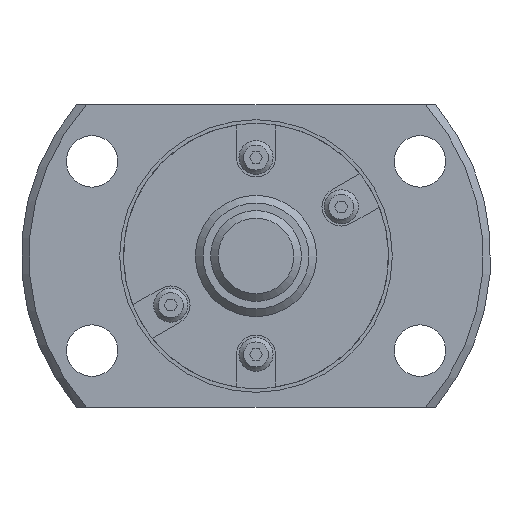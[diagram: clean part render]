
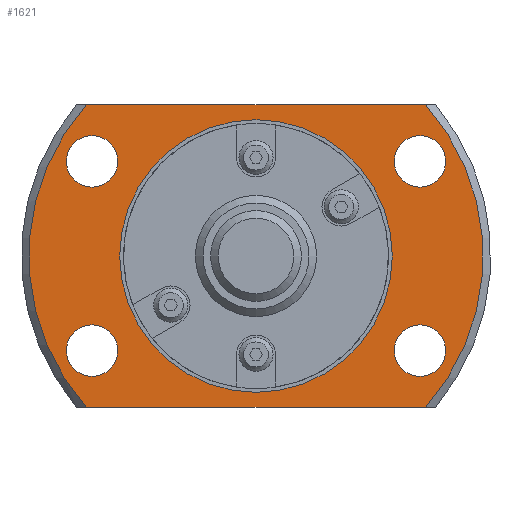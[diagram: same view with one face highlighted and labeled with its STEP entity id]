
A CAD part, left-side view. The second image highlights one B-rep face of the part: STEP entity #1621.
In plain terms, the highlighted planar face has unit normal (-1, 0, 0).
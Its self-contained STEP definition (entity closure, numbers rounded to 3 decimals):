
#108=CIRCLE('',#1776,15.);
#129=CIRCLE('',#1805,8.75);
#130=CIRCLE('',#1807,1.7);
#131=CIRCLE('',#1808,1.7);
#132=CIRCLE('',#1809,1.7);
#133=CIRCLE('',#1810,1.7);
#134=CIRCLE('',#1811,15.);
#308=ORIENTED_EDGE('',*,*,#683,.T.);
#309=ORIENTED_EDGE('',*,*,#684,.T.);
#310=ORIENTED_EDGE('',*,*,#685,.T.);
#311=ORIENTED_EDGE('',*,*,#686,.T.);
#312=ORIENTED_EDGE('',*,*,#640,.F.);
#313=ORIENTED_EDGE('',*,*,#687,.T.);
#314=ORIENTED_EDGE('',*,*,#688,.F.);
#315=ORIENTED_EDGE('',*,*,#689,.T.);
#316=ORIENTED_EDGE('',*,*,#682,.T.);
#640=EDGE_CURVE('',#843,#844,#108,.T.);
#682=EDGE_CURVE('',#880,#880,#129,.T.);
#683=EDGE_CURVE('',#881,#881,#130,.T.);
#684=EDGE_CURVE('',#882,#882,#131,.T.);
#685=EDGE_CURVE('',#883,#883,#132,.T.);
#686=EDGE_CURVE('',#884,#884,#133,.T.);
#687=EDGE_CURVE('',#843,#885,#992,.T.);
#688=EDGE_CURVE('',#886,#885,#134,.T.);
#689=EDGE_CURVE('',#886,#844,#993,.T.);
#843=VERTEX_POINT('',#2561);
#844=VERTEX_POINT('',#2563);
#880=VERTEX_POINT('',#2658);
#881=VERTEX_POINT('',#2661);
#882=VERTEX_POINT('',#2663);
#883=VERTEX_POINT('',#2665);
#884=VERTEX_POINT('',#2667);
#885=VERTEX_POINT('',#2669);
#886=VERTEX_POINT('',#2671);
#992=LINE('',#2668,#1114);
#993=LINE('',#2672,#1115);
#1114=VECTOR('',#2149,1000.);
#1115=VECTOR('',#2152,1000.);
#1251=EDGE_LOOP('',(#308));
#1252=EDGE_LOOP('',(#309));
#1253=EDGE_LOOP('',(#310));
#1254=EDGE_LOOP('',(#311));
#1255=EDGE_LOOP('',(#312,#313,#314,#315));
#1256=EDGE_LOOP('',(#316));
#1417=FACE_BOUND('',#1251,.T.);
#1418=FACE_BOUND('',#1252,.T.);
#1419=FACE_BOUND('',#1253,.T.);
#1420=FACE_BOUND('',#1254,.T.);
#1421=FACE_BOUND('',#1255,.T.);
#1422=FACE_BOUND('',#1256,.T.);
#1536=PLANE('',#1806);
#1621=ADVANCED_FACE('',(#1417,#1418,#1419,#1420,#1421,#1422),#1536,.F.);
#1776=AXIS2_PLACEMENT_3D('',#2562,#2061,#2062);
#1805=AXIS2_PLACEMENT_3D('',#2657,#2137,#2138);
#1806=AXIS2_PLACEMENT_3D('',#2659,#2139,#2140);
#1807=AXIS2_PLACEMENT_3D('',#2660,#2141,#2142);
#1808=AXIS2_PLACEMENT_3D('',#2662,#2143,#2144);
#1809=AXIS2_PLACEMENT_3D('',#2664,#2145,#2146);
#1810=AXIS2_PLACEMENT_3D('',#2666,#2147,#2148);
#1811=AXIS2_PLACEMENT_3D('',#2670,#2150,#2151);
#2061=DIRECTION('',(1.,0.,0.));
#2062=DIRECTION('',(0.,0.,-1.));
#2137=DIRECTION('',(1.,0.,0.));
#2138=DIRECTION('',(0.,0.,-1.));
#2139=DIRECTION('',(1.,0.,0.));
#2140=DIRECTION('',(0.,0.,-1.));
#2141=DIRECTION('',(1.,0.,0.));
#2142=DIRECTION('',(0.,0.,-1.));
#2143=DIRECTION('',(1.,0.,0.));
#2144=DIRECTION('',(0.,0.,-1.));
#2145=DIRECTION('',(1.,0.,0.));
#2146=DIRECTION('',(0.,0.,-1.));
#2147=DIRECTION('',(1.,0.,0.));
#2148=DIRECTION('',(0.,0.,-1.));
#2149=DIRECTION('',(0.,-1.,0.));
#2150=DIRECTION('',(1.,0.,0.));
#2151=DIRECTION('',(0.,0.,-1.));
#2152=DIRECTION('',(0.,1.,0.));
#2561=CARTESIAN_POINT('',(17.,11.18,-10.));
#2562=CARTESIAN_POINT('',(17.,0.,0.));
#2563=CARTESIAN_POINT('',(17.,11.18,10.));
#2657=CARTESIAN_POINT('',(17.,0.,0.));
#2658=CARTESIAN_POINT('',(17.,0.,-8.75));
#2659=CARTESIAN_POINT('',(17.,8.75,0.));
#2660=CARTESIAN_POINT('',(17.,-10.825,-6.25));
#2661=CARTESIAN_POINT('',(17.,-10.825,-7.95));
#2662=CARTESIAN_POINT('',(17.,-10.825,6.25));
#2663=CARTESIAN_POINT('',(17.,-10.825,4.55));
#2664=CARTESIAN_POINT('',(17.,10.825,-6.25));
#2665=CARTESIAN_POINT('',(17.,10.825,-7.95));
#2666=CARTESIAN_POINT('',(17.,10.825,6.25));
#2667=CARTESIAN_POINT('',(17.,10.825,4.55));
#2668=CARTESIAN_POINT('',(17.,8.75,-10.));
#2669=CARTESIAN_POINT('',(17.,-11.18,-10.));
#2670=CARTESIAN_POINT('',(17.,0.,0.));
#2671=CARTESIAN_POINT('',(17.,-11.18,10.));
#2672=CARTESIAN_POINT('',(17.,8.75,10.));
